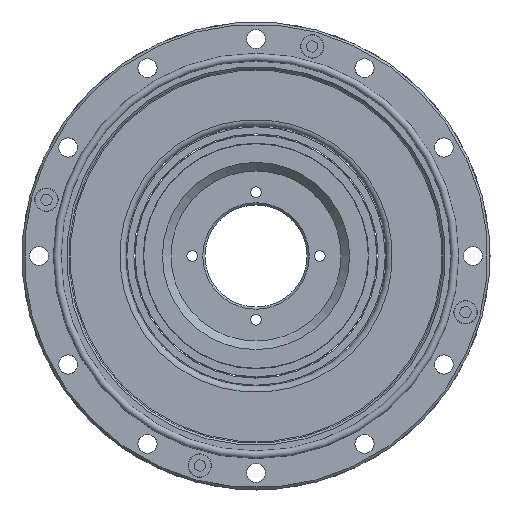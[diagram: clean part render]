
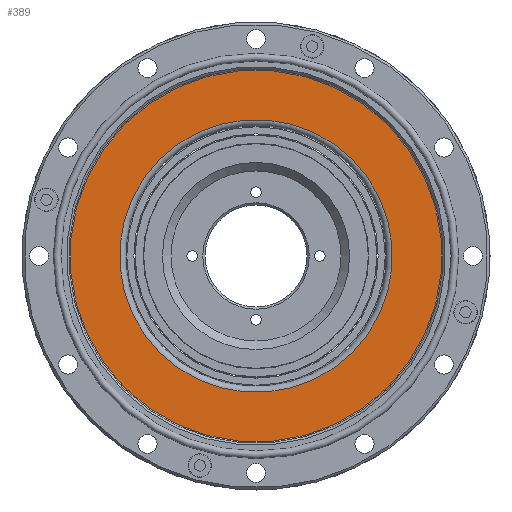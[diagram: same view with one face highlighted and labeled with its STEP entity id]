
A CAD part, left-side view. The second image highlights one B-rep face of the part: STEP entity #389.
In plain terms, the highlighted planar face has unit normal (-1, 0, 0).
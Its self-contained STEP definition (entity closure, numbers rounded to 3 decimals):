
#389 = ADVANCED_FACE ( 'NONE', ( #13279, #16290 ), #12808, .F. ) ;
#575 = VERTEX_POINT ( 'NONE', #7973 ) ;
#2390 = ORIENTED_EDGE ( 'NONE', *, *, #4049, .F. ) ;
#3218 = EDGE_LOOP ( 'NONE', ( #11646 ) ) ;
#3910 = CARTESIAN_POINT ( 'NONE',  ( -0.33, 30.958, 8.295 ) ) ;
#3911 = DIRECTION ( 'NONE',  ( 1., 0., 0. ) ) ;
#4049 = EDGE_CURVE ( 'NONE', #15229, #15229, #4711, .T. ) ;
#4562 = AXIS2_PLACEMENT_3D ( 'NONE', #13957, #6291, #15245 ) ;
#4711 = CIRCLE ( 'NONE', #4562, 32.05 ) ;
#4756 = AXIS2_PLACEMENT_3D ( 'NONE', #12430, #4768, #13735 ) ;
#4768 = DIRECTION ( 'NONE',  ( -1., 0., 0. ) ) ;
#6291 = DIRECTION ( 'NONE',  ( -1., 0., 0. ) ) ;
#7050 = CIRCLE ( 'NONE', #4756, 43.7 ) ;
#7528 = EDGE_CURVE ( 'NONE', #575, #575, #7050, .T. ) ;
#7973 = CARTESIAN_POINT ( 'NONE',  ( -0.33, -42.211, -11.31 ) ) ;
#8299 = EDGE_LOOP ( 'NONE', ( #2390 ) ) ;
#11118 = AXIS2_PLACEMENT_3D ( 'NONE', #11537, #3911, #12875 ) ;
#11537 = CARTESIAN_POINT ( 'NONE',  ( -0.33, 11.388, -42.501 ) ) ;
#11646 = ORIENTED_EDGE ( 'NONE', *, *, #7528, .T. ) ;
#12430 = CARTESIAN_POINT ( 'NONE',  ( -0.33, 0., 0. ) ) ;
#12808 = PLANE ( 'NONE',  #11118 ) ;
#12875 = DIRECTION ( 'NONE',  ( 0., -0.966, -0.259 ) ) ;
#13279 = FACE_OUTER_BOUND ( 'NONE', #3218, .T. ) ;
#13735 = DIRECTION ( 'NONE',  ( 0., -0.966, -0.259 ) ) ;
#13957 = CARTESIAN_POINT ( 'NONE',  ( -0.33, 0., 0. ) ) ;
#15229 = VERTEX_POINT ( 'NONE', #3910 ) ;
#15245 = DIRECTION ( 'NONE',  ( 0., 0.966, 0.259 ) ) ;
#16290 = FACE_BOUND ( 'NONE', #8299, .T. ) ;
